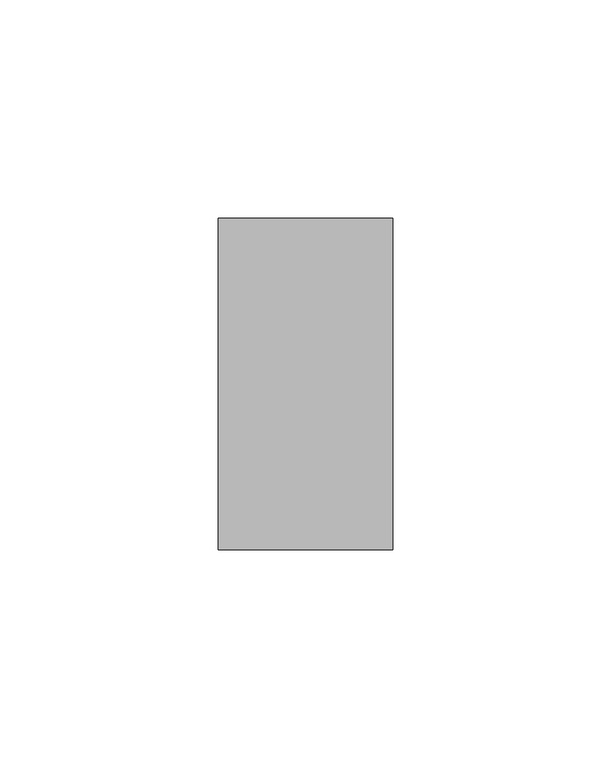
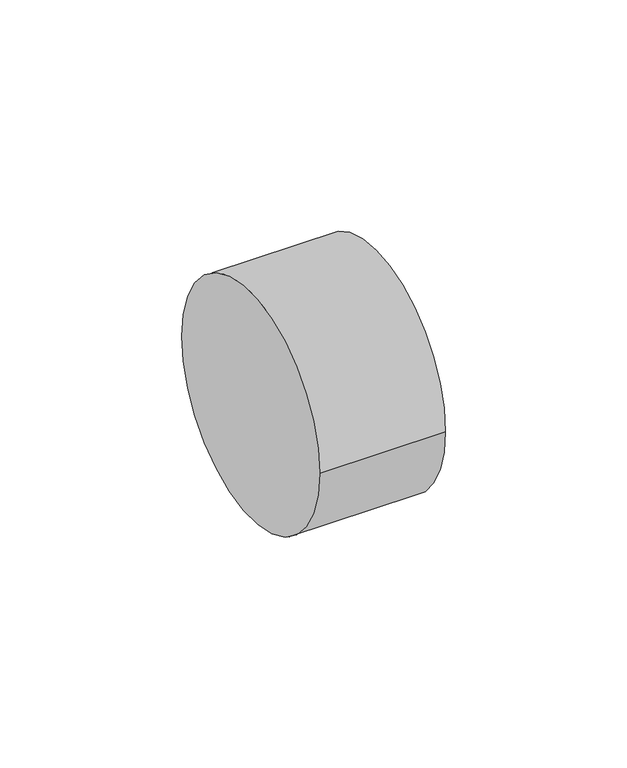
"""IFC4 building model written with IfcOpenShell, lengths in millimetres: pipe fitting geometry, ADSK_ДетальСтальнаяСварная_Заглушка_ГОСТ17379-2001 : Исполнение 2."""

from ifc_helpers import new_model, si_unit, point, frame, origin, origin_2d, place, context, project, spatial, circle_curve, trimmed, segment, composite_curve, outline, extrude, source, transform, mapped, element, save


def pipe_fitting_7af7da1b(model_context):
    return source(origin(), model_context, "Body", "SweptSolid", [
        extrude(outline(composite_curve([segment(trimmed(circle_curve(origin_2d(), 38.0), [point((-38.0, 0.0))], [point((38.0, 0.0))], False, "CARTESIAN"), True, "CONTINUOUS"), segment(trimmed(circle_curve(origin_2d(), 38.0), [point((38.0, 0.0))], [point((-38.0, 0.0))], False, "CARTESIAN"), True, "CONTINUOUS")], self_intersect=False)), frame((0.0, 0.0, 0.0), z_axis=(1.0, 0.0, 0.0), x_axis=(0.0, 1.0, 0.0)), (0.0, 0.0, 1.0), 40.0),
    ])


if __name__ == "__main__":
    model = new_model("IFC4")
    model_context = context("Model", 3, world=origin())
    ifc_project = project(units=[si_unit("LENGTHUNIT", "METRE", prefix="MILLI")], contexts=[model_context])
    site = spatial("IfcSite", under=ifc_project)
    building = spatial("IfcBuilding", under=site)
    placement = place(None, origin())
    pipe_fitting_shape = pipe_fitting_7af7da1b(model_context)
    element("IfcPipeFitting", 1, ObjectType="ADSK_ДетальСтальнаяСварная_Заглушка_ГОСТ17379-2001 : Исполнение 2", at=placement, inside=building, context=model_context, shape_type="MappedRepresentation", body=[
        mapped(pipe_fitting_shape, transform((0.0, 0.0, 0.0), x_axis=(1.0, 0.0, 0.0), y_axis=(0.0, 1.0, 0.0), z_axis=(0.0, 0.0, 1.0))),
    ])
    save(model, "model.ifc")
